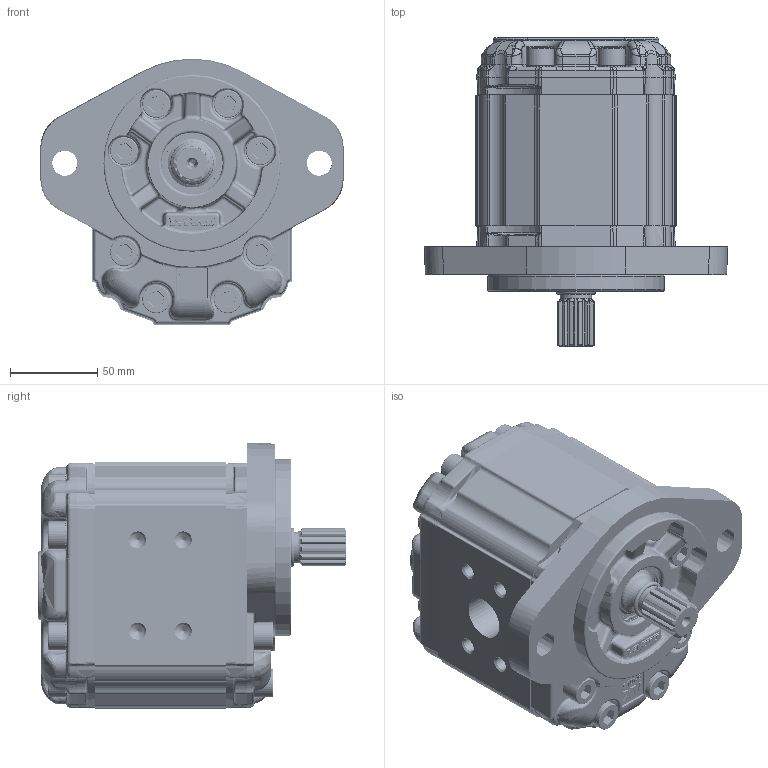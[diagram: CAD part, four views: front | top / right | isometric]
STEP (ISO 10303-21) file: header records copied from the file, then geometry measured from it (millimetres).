
FILE_DESCRIPTION(/* description */ ('Unknown'),/* implementation_level */ '2;1');
FILE_NAME(/* name */ 'X3R7231INNF',/* time_stamp */ '2026-06-04T19:29:39+02:00',/* author */ ('Unknown'),/* organization */ ('Unknown'),/* preprocessor_version */ 'ST-DEVELOPER v16.7',/* originating_system */ 'Solid Edge',/* authorisation */ 'Unknown');
FILE_SCHEMA (('AUTOMOTIVE_DESIGN {1 0 10303 214 3 1 1}'));
Products named in the file (5): X3R7231INNF; X3R31; 3I; X3NNH75; XR331-F
Assembly tree (4 placements, depth 2):
  X3R7231INNF
    X3R31
    3I
    X3NNH75
    XR331-F
Bounding box: 174 x 177.2 x 153 mm (x, y, z)
Volume: 1936583 mm3; surface area: 221855.7 mm2
Topology: 4 solids, 5 shells, 4700 faces, 14309 edges, 8917 vertices
Faces by surface type: cylinder 1843, plane 1256, bspline 1245, torus 172, cone 158, sphere 26
Full cylindrical faces by diameter (mm): 2 x2, 7.805 x8, 10 x16, 10.35 x30, 10.5 x1, 14.314 x1, 14.315 x1, 15.8 x16, 16 x16, 18 x2, 24.98 x1, 25 x4, 25.968 x1, 28.16 x1, 31 x1, 31.293 x1, 32.742 x1, 34.956 x1, 35 x1, 35.2 x1, 37 x1, 101.6 x1
Entity records: 346966 total; most frequent: CARTESIAN_POINT 199097, ORIENTED_EDGE 27638, DIRECTION 19732, EDGE_CURVE 13819, VERTEX_POINT 8771, AXIS2_PLACEMENT_3D 7486, FACE_BOUND 5158, EDGE_LOOP 5148
